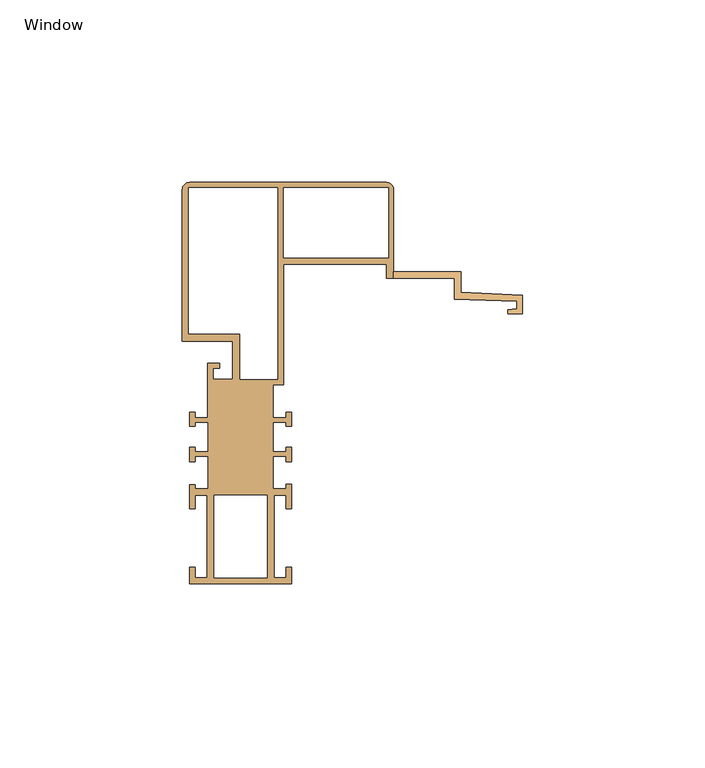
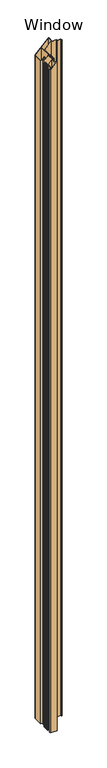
"""IFC4 building model written with IfcOpenShell, lengths in millimetres: door geometry, QO-V-QB_Door Module : Window."""

from ifc_helpers import new_model, si_unit, frame, origin, place, context, project, spatial, circle_curve, ellipse_curve, source, transform, mapped, element, save
from ifc_brep_helpers import plane_surface, cylinder_surface, advanced_brep


def window_b7e75d12(model_context):
    return source(origin(), model_context, "Body", "AdvancedBrep", [
        advanced_brep(
        [(939.9523452, -75.0037405, -10.0), (939.9523452, -84.0037561, -10.0), (943.5018295, -84.0037561, -10.0), (943.5018295, -82.8037561, -10.0), (945.0018295, -82.8037561, -10.0), (945.0018295, -89.5037561, -10.0), (943.5018295, -89.5037561, -10.0), (943.5018295, -85.7037561, -10.0), (940.2018295, -85.7037561, -10.0), (940.2018295, -108.3037561, -10.0), (943.5018295, -108.3037561, -10.0), (943.5018295, -105.5037561, -10.0), (945.0018295, -105.5037561, -10.0), (945.0018295, -110.0037561, -10.0), (917.0018295, -110.0037561, -10.0), (917.0018295, -105.5037561, -10.0), (918.5018295, -105.5037561, -10.0), (918.5018295, -108.3037561, -10.0), (921.8018295, -108.3037561, -10.0), (921.8018295, -85.7037561, -10.0), (918.5018295, -85.7037561, -10.0), (918.5018295, -89.5037561, -10.0), (917.0018295, -89.5037561, -10.0), (917.0018295, -82.8037561, -10.0), (918.5018295, -82.8037561, -10.0), (918.5018295, -84.0037561, -10.0), (922.0513139, -84.0037561, -10.0), (922.0513139, -75.0037405, -10.0), (918.5513133, -75.0037405, -10.0), (918.5513133, -76.5037405, -10.0), (917.0513133, -76.5037405, -10.0), (917.0513133, -72.6037405, -10.0), (918.5513133, -72.6037405, -10.0), (918.5513133, -73.8037405, -10.0), (922.0513133, -73.8037405, -10.0), (922.0513133, -65.7037405, -10.0), (918.5513133, -65.7037405, -10.0), (918.5513133, -66.9037405, -10.0), (917.0513133, -66.9037405, -10.0), (917.0513133, -63.0037405, -10.0), (918.5513133, -63.0037405, -10.0), (918.5513133, -64.5037405, -10.0), (922.0, -64.5037405, -10.0), (922.0, -49.6, -10.0), (925.3, -49.6, -10.0), (925.3, -51.0, -10.0), (923.4, -51.0, -10.0), (923.4, -54.0, -10.0), (928.8, -54.0, -10.0), (928.8, -43.5, -10.0), (915.0, -43.5, -10.0), (915.0, -2.0, -10.0), (917.0, 0.0, -10.0), (971.0, 0.0, -10.0), (973.0, -2.0, -10.0), (973.0, -24.5, -10.0), (991.5, -24.5, -10.0), (991.5, -30.1, -10.0), (1008.3, -30.9804507, -10.0), (1008.3, -35.9804507, -10.0), (1004.3, -35.9804507, -10.0), (1004.3, -34.974409, -10.0), (1006.8, -34.5971452, -10.0), (1006.8, -32.5971452, -10.0), (989.7, -32.0, -10.0), (989.7, -26.3, -10.0), (971.0, -26.3, -10.0), (971.0, -22.4, -10.0), (942.8, -22.4, -10.0), (942.8, -55.4999986, -10.0), (939.9523459, -55.4999986, -10.0), (939.9523459, -64.5037405, -10.0), (943.4523458, -64.5037405, -10.0), (943.4523458, -63.0037405, -10.0), (944.9523458, -63.0037405, -10.0), (944.9523458, -66.9037405, -10.0), (943.4523458, -66.9037405, -10.0), (943.4523458, -65.7037405, -10.0), (939.9523458, -65.7037405, -10.0), (939.9523458, -73.8037405, -10.0), (943.4523458, -73.8037405, -10.0), (943.4523458, -72.6037405, -10.0), (944.9523458, -72.6037405, -10.0), (944.9523458, -76.5037405, -10.0), (943.4523458, -76.5037405, -10.0), (943.4523458, -75.0037405, -10.0), (942.8, -1.5, -10.0), (942.8, -20.7, -10.0), (971.5, -20.7, -10.0), (971.5, -1.5, -10.0), (930.8, -41.5, -10.0), (930.8, -54.0, -10.0), (941.1, -54.0, -10.0), (941.1, -1.5, -10.0), (916.7, -1.5, -10.0), (916.7, -41.5, -10.0), (923.7018295, -108.3037561, -10.0), (938.3018295, -108.3037561, -10.0), (938.3018295, -85.7037561, -10.0), (923.7018295, -85.7037561, -10.0), (939.9523452, -75.0037405, 2954.4523452), (939.9523452, -84.0037561, 2954.4523452), (943.5018295, -84.0037561, 2958.0018295), (943.5018295, -82.8037561, 2958.0018295), (945.0018295, -82.8037561, 2959.5018295), (945.0018295, -89.5037561, 2959.5018295), (943.5018295, -89.5037561, 2958.0018295), (943.5018295, -85.7037561, 2958.0018295), (940.2018295, -85.7037561, 2954.7018295), (940.2018295, -108.3037561, 2954.7018295), (943.5018295, -108.3037561, 2958.0018295), (943.5018295, -105.5037561, 2958.0018295), (945.0018295, -105.5037561, 2959.5018295), (945.0018295, -110.0037561, 2959.5018295), (917.0018295, -110.0037561, 2931.5018295), (917.0018295, -105.5037561, 2931.5018295), (918.5018295, -105.5037561, 2933.0018295), (918.5018295, -108.3037561, 2933.0018295), (921.8018295, -108.3037561, 2936.3018295), (921.8018295, -85.7037561, 2936.3018295), (918.5018295, -85.7037561, 2933.0018295), (918.5018295, -89.5037561, 2933.0018295), (917.0018295, -89.5037561, 2931.5018295), (917.0018295, -82.8037561, 2931.5018295), (918.5018295, -82.8037561, 2933.0018295), (918.5018295, -84.0037561, 2933.0018295), (922.0513139, -84.0037561, 2936.5513139), (922.0513139, -75.0037405, 2936.5513139), (918.5513133, -75.0037405, 2933.0513133), (918.5513133, -76.5037405, 2933.0513133), (917.0513133, -76.5037405, 2931.5513133), (917.0513133, -72.6037405, 2931.5513133), (918.5513133, -72.6037405, 2933.0513133), (918.5513133, -73.8037405, 2933.0513133), (922.0513133, -73.8037405, 2936.5513133), (922.0513133, -65.7037405, 2936.5513133), (918.5513133, -65.7037405, 2933.0513133), (918.5513133, -66.9037405, 2933.0513133), (917.0513133, -66.9037405, 2931.5513133), (917.0513133, -63.0037405, 2931.5513133), (918.5513133, -63.0037405, 2933.0513133), (918.5513133, -64.5037405, 2933.0513133), (922.0, -64.5037405, 2936.5), (922.0, -49.6, 2936.5), (925.3, -49.6, 2939.8), (925.3, -51.0, 2939.8), (923.4, -51.0, 2937.9), (923.4, -54.0, 2937.9), (928.8, -54.0, 2943.3), (928.8, -43.5, 2943.3), (915.0, -43.5, 2929.5), (915.0, -2.0, 2929.5), (917.0, 0.0, 2931.5), (971.0, 0.0, 2985.5), (973.0, -2.0, 2987.5), (973.0, -24.5, 2987.5), (991.5, -24.5, 2987.5), (991.5, -30.1, 2987.5), (1008.3, -30.9804507, 2987.5), (1008.3, -35.9804507, 2987.5), (1004.3, -35.9804507, 2987.5), (1004.3, -34.974409, 2987.5), (1006.8, -34.5971452, 2987.5), (1006.8, -32.5971452, 2987.5), (989.7, -32.0, 2987.5), (989.7, -26.3, 2987.5), (973.0, -26.3, 2987.5), (971.0, -26.3, 2985.5), (971.0, -22.4, 2985.5), (942.8, -22.4, 2957.3), (942.8, -55.4999986, 2957.3), (939.9523459, -55.4999986, 2954.4523459), (939.9523459, -64.5037405, 2954.4523459), (943.4523458, -64.5037405, 2957.9523458), (943.4523458, -63.0037405, 2957.9523458), (944.9523458, -63.0037405, 2959.4523458), (944.9523458, -66.9037405, 2959.4523458), (943.4523458, -66.9037405, 2957.9523458), (943.4523458, -65.7037405, 2957.9523458), (939.9523458, -65.7037405, 2954.4523458), (939.9523458, -73.8037405, 2954.4523458), (943.4523458, -73.8037405, 2957.9523458), (943.4523458, -72.6037405, 2957.9523458), (944.9523458, -72.6037405, 2959.4523458), (944.9523458, -76.5037405, 2959.4523458), (943.4523458, -76.5037405, 2957.9523458), (943.4523458, -75.0037405, 2957.9523458), (942.8, -1.5, 2957.3), (942.8, -20.7, 2957.3), (971.5, -20.7, 2986.0), (971.5, -1.5, 2986.0), (930.8, -41.5, 2945.3), (930.8, -54.0, 2945.3), (941.1, -54.0, 2955.6), (941.1, -1.5, 2955.6), (916.7, -1.5, 2931.2), (916.7, -41.5, 2931.2), (923.7018295, -108.3037561, 2938.2018295), (938.3018295, -108.3037561, 2952.8018295), (938.3018295, -85.7037561, 2952.8018295), (923.7018295, -85.7037561, 2938.2018295)],
        [
            (0, 1),
            (1, 2),
            (2, 3),
            (3, 4),
            (4, 5),
            (5, 6),
            (6, 7),
            (7, 8),
            (8, 9),
            (9, 10),
            (10, 11),
            (11, 12),
            (12, 13),
            (13, 14),
            (14, 15),
            (15, 16),
            (16, 17),
            (17, 18),
            (18, 19),
            (19, 20),
            (20, 21),
            (21, 22),
            (22, 23),
            (23, 24),
            (24, 25),
            (25, 26),
            (26, 27),
            (27, 28),
            (28, 29),
            (29, 30),
            (30, 31),
            (31, 32),
            (32, 33),
            (33, 34),
            (34, 35),
            (35, 36),
            (36, 37),
            (37, 38),
            (38, 39),
            (39, 40),
            (40, 41),
            (41, 42),
            (42, 43),
            (43, 44),
            (44, 45),
            (45, 46),
            (46, 47),
            (47, 48),
            (48, 49),
            (49, 50),
            (50, 51),
            (51, 52, circle_curve(frame((917.0, -2.0, -10.0), z_axis=(0.0, 0.0, -1.0), x_axis=(0.0, -1.0, 0.0)), 2.0)),
            (52, 53),
            (53, 54, circle_curve(frame((971.0, -2.0, -10.0), z_axis=(0.0, 0.0, -1.0), x_axis=(0.0, -1.0, 0.0)), 2.0)),
            (54, 55),
            (55, 56),
            (56, 57),
            (57, 58),
            (58, 59),
            (59, 60),
            (60, 61),
            (61, 62),
            (62, 63),
            (63, 64),
            (64, 65),
            (65, 66),
            (66, 67),
            (67, 68),
            (68, 69),
            (69, 70),
            (70, 71),
            (71, 72),
            (72, 73),
            (73, 74),
            (74, 75),
            (75, 76),
            (76, 77),
            (77, 78),
            (78, 79),
            (79, 80),
            (80, 81),
            (81, 82),
            (82, 83),
            (83, 84),
            (84, 85),
            (85, 0),
            (86, 87),
            (87, 88),
            (88, 89),
            (89, 86),
            (90, 91),
            (91, 92),
            (92, 93),
            (93, 94),
            (94, 95),
            (95, 90),
            (96, 97),
            (97, 98),
            (98, 99),
            (99, 96),
            (0, 100),
            (100, 101),
            (101, 1),
            (101, 102),
            (102, 2),
            (102, 103),
            (103, 3),
            (103, 104),
            (104, 4),
            (104, 105),
            (105, 5),
            (105, 106),
            (106, 6),
            (106, 107),
            (107, 7),
            (107, 108),
            (108, 8),
            (108, 109),
            (109, 9),
            (109, 110),
            (110, 10),
            (110, 111),
            (111, 11),
            (111, 112),
            (112, 12),
            (112, 113),
            (113, 13),
            (113, 114),
            (114, 14),
            (114, 115),
            (115, 15),
            (115, 116),
            (116, 16),
            (116, 117),
            (117, 17),
            (117, 118),
            (118, 18),
            (118, 119),
            (119, 19),
            (119, 120),
            (120, 20),
            (120, 121),
            (121, 21),
            (121, 122),
            (122, 22),
            (122, 123),
            (123, 23),
            (123, 124),
            (124, 24),
            (124, 125),
            (125, 25),
            (125, 126),
            (126, 26),
            (126, 127),
            (127, 27),
            (127, 128),
            (128, 28),
            (128, 129),
            (129, 29),
            (129, 130),
            (130, 30),
            (130, 131),
            (131, 31),
            (131, 132),
            (132, 32),
            (132, 133),
            (133, 33),
            (133, 134),
            (134, 34),
            (134, 135),
            (135, 35),
            (135, 136),
            (136, 36),
            (136, 137),
            (137, 37),
            (137, 138),
            (138, 38),
            (138, 139),
            (139, 39),
            (139, 140),
            (140, 40),
            (140, 141),
            (141, 41),
            (141, 142),
            (142, 42),
            (142, 143),
            (143, 43),
            (143, 144),
            (144, 44),
            (144, 145),
            (145, 45),
            (145, 146),
            (146, 46),
            (146, 147),
            (147, 47),
            (147, 148),
            (148, 48),
            (148, 149),
            (149, 49),
            (149, 150),
            (150, 50),
            (150, 151),
            (151, 51),
            (151, 152, ellipse_curve(frame((917.0, -2.0, 2931.5), z_axis=(0.7071067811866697, 0.0, -0.7071067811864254), x_axis=(0.7071067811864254, 0.0, 0.7071067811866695)), 2.8284271, 2.0)),
            (152, 52),
            (152, 153),
            (153, 53),
            (153, 154, ellipse_curve(frame((971.0, -2.0, 2985.5), z_axis=(0.7071067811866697, 0.0, -0.7071067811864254), x_axis=(0.7071067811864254, 0.0, 0.7071067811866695)), 2.8284271, 2.0)),
            (154, 54),
            (154, 155),
            (155, 55),
            (155, 156),
            (156, 56),
            (156, 157),
            (157, 57),
            (157, 158),
            (158, 58),
            (158, 159),
            (159, 59),
            (159, 160),
            (160, 60),
            (160, 161),
            (161, 61),
            (161, 162),
            (162, 62),
            (162, 163),
            (163, 63),
            (163, 164),
            (164, 64),
            (164, 165),
            (165, 65),
            (165, 166),
            (166, 167),
            (167, 66),
            (167, 168),
            (168, 67),
            (168, 169),
            (169, 68),
            (169, 170),
            (170, 69),
            (170, 171),
            (171, 70),
            (171, 172),
            (172, 71),
            (172, 173),
            (173, 72),
            (173, 174),
            (174, 73),
            (174, 175),
            (175, 74),
            (175, 176),
            (176, 75),
            (176, 177),
            (177, 76),
            (177, 178),
            (178, 77),
            (178, 179),
            (179, 78),
            (179, 180),
            (180, 79),
            (180, 181),
            (181, 80),
            (181, 182),
            (182, 81),
            (182, 183),
            (183, 82),
            (183, 184),
            (184, 83),
            (184, 185),
            (185, 84),
            (185, 186),
            (186, 85),
            (186, 100),
            (86, 187),
            (187, 188),
            (188, 87),
            (188, 189),
            (189, 88),
            (189, 190),
            (190, 89),
            (190, 187),
            (90, 191),
            (191, 192),
            (192, 91),
            (192, 193),
            (193, 92),
            (193, 194),
            (194, 93),
            (194, 195),
            (195, 94),
            (195, 196),
            (196, 95),
            (196, 191),
            (96, 197),
            (197, 198),
            (198, 97),
            (198, 199),
            (199, 98),
            (199, 200),
            (200, 99),
            (200, 197),
            (155, 166),
        ],
        [
            plane_surface(frame((1000.0, 0.0, -10.0), z_axis=(0.0, 0.0, -1.0), x_axis=(0.0, -1.0, 0.0))),
            plane_surface(frame((939.9523452, -84.0037561, 2987.5), z_axis=(1.0, 0.0, 0.0), x_axis=(0.0, 0.0, -1.0))),
            plane_surface(frame((943.5018295, -84.0037561, 2987.5), z_axis=(0.0, 1.0, 0.0), x_axis=(0.0, 0.0, -1.0))),
            plane_surface(frame((943.5018295, -82.8037561, 2987.5), z_axis=(-1.0, 0.0, 0.0), x_axis=(0.0, 0.0, -1.0))),
            plane_surface(frame((945.0018295, -82.8037561, 2987.5), z_axis=(0.0, 1.0, 0.0), x_axis=(0.0, 0.0, -1.0))),
            plane_surface(frame((945.0018295, -89.5037561, 2987.5), z_axis=(1.0, 0.0, 0.0), x_axis=(0.0, 0.0, -1.0))),
            plane_surface(frame((943.5018295, -89.5037561, 2987.5), z_axis=(0.0, -1.0, 0.0), x_axis=(0.0, 0.0, -1.0))),
            plane_surface(frame((943.5018295, -85.7037561, 2987.5), z_axis=(-1.0, 0.0, 0.0), x_axis=(0.0, 0.0, -1.0))),
            plane_surface(frame((940.2018295, -85.7037561, 2987.5), z_axis=(0.0, -1.0, 0.0), x_axis=(0.0, 0.0, -1.0))),
            plane_surface(frame((940.2018295, -108.3037561, 2987.5), z_axis=(1.0, 0.0, 0.0), x_axis=(0.0, 0.0, -1.0))),
            plane_surface(frame((943.5018295, -108.3037561, 2987.5), z_axis=(0.0, 1.0, 0.0), x_axis=(0.0, 0.0, -1.0))),
            plane_surface(frame((943.5018295, -105.5037561, 2987.5), z_axis=(-1.0, 0.0, 0.0), x_axis=(0.0, 0.0, -1.0))),
            plane_surface(frame((945.0018295, -105.5037561, 2987.5), z_axis=(0.0, 1.0, 0.0), x_axis=(0.0, 0.0, -1.0))),
            plane_surface(frame((945.0018295, -110.0037561, 2987.5), z_axis=(1.0, 0.0, 0.0), x_axis=(0.0, 0.0, -1.0))),
            plane_surface(frame((917.0018295, -110.0037561, 2987.5), z_axis=(0.0, -1.0, 0.0), x_axis=(0.0, 0.0, -1.0))),
            plane_surface(frame((917.0018295, -105.5037561, 2987.5), z_axis=(-1.0, 0.0, 0.0), x_axis=(0.0, 0.0, -1.0))),
            plane_surface(frame((918.5018295, -105.5037561, 2987.5), z_axis=(0.0, 1.0, 0.0), x_axis=(0.0, 0.0, -1.0))),
            plane_surface(frame((918.5018295, -108.3037561, 2987.5), z_axis=(1.0, 0.0, 0.0), x_axis=(0.0, 0.0, -1.0))),
            plane_surface(frame((921.8018295, -108.3037561, 2987.5), z_axis=(0.0, 1.0, 0.0), x_axis=(0.0, 0.0, -1.0))),
            plane_surface(frame((921.8018295, -85.7037561, 2987.5), z_axis=(-1.0, 0.0, 0.0), x_axis=(0.0, 0.0, -1.0))),
            plane_surface(frame((918.5018295, -85.7037561, 2987.5), z_axis=(0.0, -1.0, 0.0), x_axis=(0.0, 0.0, -1.0))),
            plane_surface(frame((918.5018295, -89.5037561, 2987.5), z_axis=(1.0, 0.0, 0.0), x_axis=(0.0, 0.0, -1.0))),
            plane_surface(frame((917.0018295, -89.5037561, 2987.5), z_axis=(0.0, -1.0, 0.0), x_axis=(0.0, 0.0, -1.0))),
            plane_surface(frame((917.0018295, -82.8037561, 2987.5), z_axis=(-1.0, 0.0, 0.0), x_axis=(0.0, 0.0, -1.0))),
            plane_surface(frame((918.5018295, -82.8037561, 2987.5), z_axis=(0.0, 1.0, 0.0), x_axis=(0.0, 0.0, -1.0))),
            plane_surface(frame((918.5018295, -84.0037561, 2987.5), z_axis=(1.0, 0.0, 0.0), x_axis=(0.0, 0.0, -1.0))),
            plane_surface(frame((922.0513139, -84.0037561, 2987.5), z_axis=(0.0, 1.0, 0.0), x_axis=(0.0, 0.0, -1.0))),
            plane_surface(frame((922.0513139, -75.0037405, 2987.5), z_axis=(-1.0, 0.0, 0.0), x_axis=(0.0, 0.0, -1.0))),
            plane_surface(frame((918.5513133, -75.0037405, 2987.5), z_axis=(0.0, -1.0, 0.0), x_axis=(0.0, 0.0, -1.0))),
            plane_surface(frame((918.5513133, -76.5037405, 2987.5), z_axis=(1.0, 0.0, 0.0), x_axis=(0.0, 0.0, -1.0))),
            plane_surface(frame((917.0513133, -76.5037405, 2987.5), z_axis=(0.0, -1.0, 0.0), x_axis=(0.0, 0.0, -1.0))),
            plane_surface(frame((917.0513133, -72.6037405, 2987.5), z_axis=(-1.0, 0.0, 0.0), x_axis=(0.0, 0.0, -1.0))),
            plane_surface(frame((918.5513133, -72.6037405, 2987.5), z_axis=(0.0, 1.0, 0.0), x_axis=(0.0, 0.0, -1.0))),
            plane_surface(frame((918.5513133, -73.8037405, 2987.5), z_axis=(1.0, 0.0, 0.0), x_axis=(0.0, 0.0, -1.0))),
            plane_surface(frame((922.0513133, -73.8037405, 2987.5), z_axis=(0.0, 1.0, 0.0), x_axis=(0.0, 0.0, -1.0))),
            plane_surface(frame((922.0513133, -65.7037405, 2987.5), z_axis=(-1.0, 0.0, 0.0), x_axis=(0.0, 0.0, -1.0))),
            plane_surface(frame((918.5513133, -65.7037405, 2987.5), z_axis=(0.0, -1.0, 0.0), x_axis=(0.0, 0.0, -1.0))),
            plane_surface(frame((918.5513133, -66.9037405, 2987.5), z_axis=(1.0, 0.0, 0.0), x_axis=(0.0, 0.0, -1.0))),
            plane_surface(frame((917.0513133, -66.9037405, 2987.5), z_axis=(0.0, -1.0, 0.0), x_axis=(0.0, 0.0, -1.0))),
            plane_surface(frame((917.0513133, -63.0037405, 2987.5), z_axis=(-1.0, 0.0, 0.0), x_axis=(0.0, 0.0, -1.0))),
            plane_surface(frame((918.5513133, -63.0037405, 2987.5), z_axis=(0.0, 1.0, 0.0), x_axis=(0.0, 0.0, -1.0))),
            plane_surface(frame((918.5513133, -64.5037405, 2987.5), z_axis=(1.0, 0.0, 0.0), x_axis=(0.0, 0.0, -1.0))),
            plane_surface(frame((922.0, -64.5037405, 2987.5), z_axis=(0.0, 1.0, 0.0), x_axis=(0.0, 0.0, -1.0))),
            plane_surface(frame((922.0, -49.6, 2987.5), z_axis=(-1.0, 0.0, 0.0), x_axis=(0.0, 0.0, -1.0))),
            plane_surface(frame((925.3, -49.6, 2987.5), z_axis=(0.0, 1.0, 0.0), x_axis=(0.0, 0.0, -1.0))),
            plane_surface(frame((925.3, -51.0, 2987.5), z_axis=(1.0, 0.0, 0.0), x_axis=(0.0, 0.0, -1.0))),
            plane_surface(frame((923.4, -51.0, 2987.5), z_axis=(0.0, -1.0, 0.0), x_axis=(0.0, 0.0, -1.0))),
            plane_surface(frame((923.4, -54.0, 2987.5), z_axis=(1.0, 0.0, 0.0), x_axis=(0.0, 0.0, -1.0))),
            plane_surface(frame((928.8, -54.0, 2987.5), z_axis=(0.0, 1.0, 0.0), x_axis=(0.0, 0.0, -1.0))),
            plane_surface(frame((928.8, -43.5, 2987.5), z_axis=(-1.0, 0.0, 0.0), x_axis=(0.0, 0.0, -1.0))),
            plane_surface(frame((915.0, -43.5, 2987.5), z_axis=(0.0, -1.0, 0.0), x_axis=(0.0, 0.0, -1.0))),
            plane_surface(frame((915.0, -2.0, 2987.5), z_axis=(-1.0, 0.0, 0.0), x_axis=(0.0, 0.0, -1.0))),
            cylinder_surface(frame((917.0, -2.0, 2987.5), z_axis=(0.0, 0.0, 1.0), x_axis=(0.0, -1.0, 0.0)), 2.0),
            plane_surface(frame((971.0, 0.0, 2987.5), z_axis=(0.0, 1.0, 0.0), x_axis=(0.0, 0.0, -1.0))),
            cylinder_surface(frame((971.0, -2.0, 2987.5), z_axis=(0.0, 0.0, 1.0), x_axis=(0.0, -1.0, 0.0)), 2.0),
            plane_surface(frame((973.0, -24.5, 2987.5), z_axis=(1.0, 0.0, 0.0), x_axis=(0.0, 0.0, -1.0))),
            plane_surface(frame((991.5, -24.5, 2987.5), z_axis=(0.0, 1.0, 0.0), x_axis=(0.0, 0.0, -1.0))),
            plane_surface(frame((991.5, -30.1, 2987.5), z_axis=(1.0, 0.0, 0.0), x_axis=(0.0, 0.0, -1.0))),
            plane_surface(frame((1008.3, -30.9804507, 2987.5), z_axis=(0.05233595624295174, 0.9986295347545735, 0.0), x_axis=(0.0, 0.0, -1.0))),
            plane_surface(frame((1008.3, -35.9804507, 2987.5), z_axis=(1.0, 0.0, 0.0), x_axis=(0.0, 0.0, -1.0))),
            plane_surface(frame((1004.3, -35.9804507, 2987.5), z_axis=(0.0, -1.0, 0.0), x_axis=(0.0, 0.0, -1.0))),
            plane_surface(frame((1004.3, -34.974409, 2987.5), z_axis=(-1.0, 0.0, 0.0), x_axis=(0.0, 0.0, -1.0))),
            plane_surface(frame((1006.8, -34.5971452, 2987.5), z_axis=(-0.14921608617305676, 0.9888046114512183, 0.0), x_axis=(0.0, 0.0, -1.0))),
            plane_surface(frame((1006.8, -32.5971452, 2987.5), z_axis=(-1.0, 0.0, 0.0), x_axis=(0.0, 0.0, -1.0))),
            plane_surface(frame((989.7, -32.0, 2987.5), z_axis=(-0.0348994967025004, -0.9993908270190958, 0.0), x_axis=(0.0, 0.0, -1.0))),
            plane_surface(frame((989.7, -26.3, 2987.5), z_axis=(-1.0, 0.0, 0.0), x_axis=(0.0, 0.0, -1.0))),
            plane_surface(frame((971.0, -26.3, 2987.5), z_axis=(0.0, -1.0, 0.0), x_axis=(0.0, 0.0, -1.0))),
            plane_surface(frame((971.0, -22.4, 2987.5), z_axis=(-1.0, 0.0, 0.0), x_axis=(0.0, 0.0, -1.0))),
            plane_surface(frame((942.8, -22.4, 2987.5), z_axis=(0.0, -1.0, 0.0), x_axis=(0.0, 0.0, -1.0))),
            plane_surface(frame((942.8, -55.4999986, 2987.5), z_axis=(1.0, 0.0, 0.0), x_axis=(0.0, 0.0, -1.0))),
            plane_surface(frame((939.9523459, -55.4999986, 2987.5), z_axis=(0.0, -1.0, 0.0), x_axis=(0.0, 0.0, -1.0))),
            plane_surface(frame((939.9523459, -64.5037405, 2987.5), z_axis=(1.0, 0.0, 0.0), x_axis=(0.0, 0.0, -1.0))),
            plane_surface(frame((943.4523458, -64.5037405, 2987.5), z_axis=(0.0, 1.0, 0.0), x_axis=(0.0, 0.0, -1.0))),
            plane_surface(frame((943.4523458, -63.0037405, 2987.5), z_axis=(-1.0, 0.0, 0.0), x_axis=(0.0, 0.0, -1.0))),
            plane_surface(frame((944.9523458, -63.0037405, 2987.5), z_axis=(0.0, 1.0, 0.0), x_axis=(0.0, 0.0, -1.0))),
            plane_surface(frame((944.9523458, -66.9037405, 2987.5), z_axis=(1.0, 0.0, 0.0), x_axis=(0.0, 0.0, -1.0))),
            plane_surface(frame((943.4523458, -66.9037405, 2987.5), z_axis=(0.0, -1.0, 0.0), x_axis=(0.0, 0.0, -1.0))),
            plane_surface(frame((943.4523458, -65.7037405, 2987.5), z_axis=(-1.0, 0.0, 0.0), x_axis=(0.0, 0.0, -1.0))),
            plane_surface(frame((939.9523458, -65.7037405, 2987.5), z_axis=(0.0, -1.0, 0.0), x_axis=(0.0, 0.0, -1.0))),
            plane_surface(frame((939.9523458, -73.8037405, 2987.5), z_axis=(1.0, 0.0, 0.0), x_axis=(0.0, 0.0, -1.0))),
            plane_surface(frame((943.4523458, -73.8037405, 2987.5), z_axis=(0.0, 1.0, 0.0), x_axis=(0.0, 0.0, -1.0))),
            plane_surface(frame((943.4523458, -72.6037405, 2987.5), z_axis=(-1.0, 0.0, 0.0), x_axis=(0.0, 0.0, -1.0))),
            plane_surface(frame((944.9523458, -72.6037405, 2987.5), z_axis=(0.0, 1.0, 0.0), x_axis=(0.0, 0.0, -1.0))),
            plane_surface(frame((944.9523458, -76.5037405, 2987.5), z_axis=(1.0, 0.0, 0.0), x_axis=(0.0, 0.0, -1.0))),
            plane_surface(frame((943.4523458, -76.5037405, 2987.5), z_axis=(0.0, -1.0, 0.0), x_axis=(0.0, 0.0, -1.0))),
            plane_surface(frame((943.4523458, -75.0037405, 2987.5), z_axis=(-1.0, 0.0, 0.0), x_axis=(0.0, 0.0, -1.0))),
            plane_surface(frame((939.9523452, -75.0037405, 2987.5), z_axis=(0.0, -1.0, 0.0), x_axis=(0.0, 0.0, -1.0))),
            plane_surface(frame((942.8, -20.7, 2987.5), z_axis=(1.0, 0.0, 0.0), x_axis=(0.0, 0.0, -1.0))),
            plane_surface(frame((971.5, -20.7, 2987.5), z_axis=(0.0, 1.0, 0.0), x_axis=(0.0, 0.0, -1.0))),
            plane_surface(frame((971.5, -1.5, 2987.5), z_axis=(-1.0, 0.0, 0.0), x_axis=(0.0, 0.0, -1.0))),
            plane_surface(frame((942.8, -1.5, 2987.5), z_axis=(0.0, -1.0, 0.0), x_axis=(0.0, 0.0, -1.0))),
            plane_surface(frame((930.8, -54.0, 2987.5), z_axis=(1.0, 0.0, 0.0), x_axis=(0.0, 0.0, -1.0))),
            plane_surface(frame((941.1, -54.0, 2987.5), z_axis=(0.0, 1.0, 0.0), x_axis=(0.0, 0.0, -1.0))),
            plane_surface(frame((941.1, -1.5, 2987.5), z_axis=(-1.0, 0.0, 0.0), x_axis=(0.0, 0.0, -1.0))),
            plane_surface(frame((916.7, -1.5, 2987.5), z_axis=(0.0, -1.0, 0.0), x_axis=(0.0, 0.0, -1.0))),
            plane_surface(frame((916.7, -41.5, 2987.5), z_axis=(1.0, 0.0, 0.0), x_axis=(0.0, 0.0, -1.0))),
            plane_surface(frame((930.8, -41.5, 2987.5), z_axis=(0.0, 1.0, 0.0), x_axis=(0.0, 0.0, -1.0))),
            plane_surface(frame((938.3018295, -108.3037561, 2987.5), z_axis=(0.0, 1.0, 0.0), x_axis=(0.0, 0.0, -1.0))),
            plane_surface(frame((938.3018295, -85.7037561, 2987.5), z_axis=(-1.0, 0.0, 0.0), x_axis=(0.0, 0.0, -1.0))),
            plane_surface(frame((923.7018295, -85.7037561, 2987.5), z_axis=(0.0, -1.0, 0.0), x_axis=(0.0, 0.0, -1.0))),
            plane_surface(frame((923.7018295, -108.3037561, 2987.5), z_axis=(1.0, 0.0, 0.0), x_axis=(0.0, 0.0, -1.0))),
            plane_surface(frame((1000.0, 0.0, 2987.5), z_axis=(0.0, 0.0, 1.0), x_axis=(0.0, -1.0, 0.0))),
            plane_surface(frame((915.0, -180.0, 2929.5), z_axis=(-0.7071067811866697, 0.0, 0.7071067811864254), x_axis=(0.0, 1.0, 0.0))),
        ],
        [
            (0, [[1, 2, 3, 4, 5, 6, 7, 8, 9, 10, 11, 12, 13, 14, 15, 16, 17, 18, 19, 20, 21, 22, 23, 24, 25, 26, 27, 28, 29, 30, 31, 32, 33, 34, 35, 36, 37, 38, 39, 40, 41, 42, 43, 44, 45, 46, 47, 48, 49, 50, 51, 52, 53, 54, 55, 56, 57, 58, 59, 60, 61, 62, 63, 64, 65, 66, 67, 68, 69, 70, 71, 72, 73, 74, 75, 76, 77, 78, 79, 80, 81, 82, 83, 84, 85, 86], [87, 88, 89, 90], [91, 92, 93, 94, 95, 96], [97, 98, 99, 100]]),
            (1, [[-1, 101, 102, 103]]),
            (2, [[-2, -103, 104, 105]]),
            (3, [[-3, -105, 106, 107]]),
            (4, [[-4, -107, 108, 109]]),
            (5, [[-5, -109, 110, 111]]),
            (6, [[-6, -111, 112, 113]]),
            (7, [[-7, -113, 114, 115]]),
            (8, [[-8, -115, 116, 117]]),
            (9, [[-9, -117, 118, 119]]),
            (10, [[-10, -119, 120, 121]]),
            (11, [[-11, -121, 122, 123]]),
            (12, [[-12, -123, 124, 125]]),
            (13, [[-13, -125, 126, 127]]),
            (14, [[-14, -127, 128, 129]]),
            (15, [[-15, -129, 130, 131]]),
            (16, [[-16, -131, 132, 133]]),
            (17, [[-17, -133, 134, 135]]),
            (18, [[-18, -135, 136, 137]]),
            (19, [[-19, -137, 138, 139]]),
            (20, [[-20, -139, 140, 141]]),
            (21, [[-21, -141, 142, 143]]),
            (22, [[-22, -143, 144, 145]]),
            (23, [[-23, -145, 146, 147]]),
            (24, [[-24, -147, 148, 149]]),
            (25, [[-25, -149, 150, 151]]),
            (26, [[-26, -151, 152, 153]]),
            (27, [[-27, -153, 154, 155]]),
            (28, [[-28, -155, 156, 157]]),
            (29, [[-29, -157, 158, 159]]),
            (30, [[-30, -159, 160, 161]]),
            (31, [[-31, -161, 162, 163]]),
            (32, [[-32, -163, 164, 165]]),
            (33, [[-33, -165, 166, 167]]),
            (34, [[-34, -167, 168, 169]]),
            (35, [[-35, -169, 170, 171]]),
            (36, [[-36, -171, 172, 173]]),
            (37, [[-37, -173, 174, 175]]),
            (38, [[-38, -175, 176, 177]]),
            (39, [[-39, -177, 178, 179]]),
            (40, [[-40, -179, 180, 181]]),
            (41, [[-41, -181, 182, 183]]),
            (42, [[-42, -183, 184, 185]]),
            (43, [[-43, -185, 186, 187]]),
            (44, [[-44, -187, 188, 189]]),
            (45, [[-45, -189, 190, 191]]),
            (46, [[-46, -191, 192, 193]]),
            (47, [[-47, -193, 194, 195]]),
            (48, [[-48, -195, 196, 197]]),
            (49, [[-49, -197, 198, 199]]),
            (50, [[-50, -199, 200, 201]]),
            (51, [[-51, -201, 202, 203]]),
            (52, [[-52, -203, 204, 205]]),
            (53, [[-53, -205, 206, 207]]),
            (54, [[-54, -207, 208, 209]]),
            (55, [[-55, -209, 210, 211]]),
            (56, [[212, 213, -56, -211]]),
            (57, [[214, 215, -57, -213]]),
            (58, [[216, 217, -58, -215]]),
            (59, [[218, 219, -59, -217]]),
            (60, [[220, 221, -60, -219]]),
            (61, [[222, 223, -61, -221]]),
            (62, [[224, 225, -62, -223]]),
            (63, [[226, 227, -63, -225]]),
            (64, [[228, 229, -64, -227]]),
            (65, [[230, 231, -65, -229]]),
            (66, [[-66, -231, 232, 233, 234]]),
            (67, [[-67, -234, 235, 236]]),
            (68, [[-68, -236, 237, 238]]),
            (69, [[-69, -238, 239, 240]]),
            (70, [[-70, -240, 241, 242]]),
            (71, [[-71, -242, 243, 244]]),
            (72, [[-72, -244, 245, 246]]),
            (73, [[-73, -246, 247, 248]]),
            (74, [[-74, -248, 249, 250]]),
            (75, [[-75, -250, 251, 252]]),
            (76, [[-76, -252, 253, 254]]),
            (77, [[-77, -254, 255, 256]]),
            (78, [[-78, -256, 257, 258]]),
            (79, [[-79, -258, 259, 260]]),
            (80, [[-80, -260, 261, 262]]),
            (81, [[-81, -262, 263, 264]]),
            (82, [[-82, -264, 265, 266]]),
            (83, [[-83, -266, 267, 268]]),
            (84, [[-84, -268, 269, 270]]),
            (85, [[-85, -270, 271, 272]]),
            (86, [[-86, -272, 273, -101]]),
            (87, [[-87, 274, 275, 276]]),
            (88, [[-88, -276, 277, 278]]),
            (89, [[-89, -278, 279, 280]]),
            (90, [[-90, -280, 281, -274]]),
            (91, [[-91, 282, 283, 284]]),
            (92, [[-92, -284, 285, 286]]),
            (93, [[-93, -286, 287, 288]]),
            (94, [[-94, -288, 289, 290]]),
            (95, [[-95, -290, 291, 292]]),
            (96, [[-96, -292, 293, -282]]),
            (97, [[-97, 294, 295, 296]]),
            (98, [[-98, -296, 297, 298]]),
            (99, [[-99, -298, 299, 300]]),
            (100, [[-100, -300, 301, -294]]),
            (101, [[-230, -228, -226, -224, -222, -220, -218, -216, -214, -212, 302, -232]]),
            (102, [[-302, -210, -208, -206, -204, -202, -200, -198, -196, -194, -192, -190, -188, -186, -184, -182, -180, -178, -176, -174, -172, -170, -168, -166, -164, -162, -160, -158, -156, -154, -152, -150, -148, -146, -144, -142, -140, -138, -136, -134, -132, -130, -128, -126, -124, -122, -120, -118, -116, -114, -112, -110, -108, -106, -104, -102, -273, -271, -269, -267, -265, -263, -261, -259, -257, -255, -253, -251, -249, -247, -245, -243, -241, -239, -237, -235, -233], [-275, -281, -279, -277], [-283, -293, -291, -289, -287, -285], [-295, -301, -299, -297]]),
        ],
    ),
    ])


if __name__ == "__main__":
    model = new_model("IFC4")
    model_context = context("Model", 3, world=origin())
    ifc_project = project(units=[si_unit("LENGTHUNIT", "METRE", prefix="MILLI")], contexts=[model_context])
    site = spatial("IfcSite", under=ifc_project)
    building = spatial("IfcBuilding", under=site)
    placement = place(None, origin())
    window_shape = window_b7e75d12(model_context)
    element("IfcDoor", 1, ObjectType="QO-V-QB_Door Module : Window", at=placement, inside=building, context=model_context, shape_type="MappedRepresentation", body=[
        mapped(window_shape, transform((0.0, 0.0, 0.0), x_axis=(1.0, 0.0, 0.0), y_axis=(0.0, 1.0, 0.0), z_axis=(0.0, 0.0, 1.0))),
    ])
    save(model, "model.ifc")
